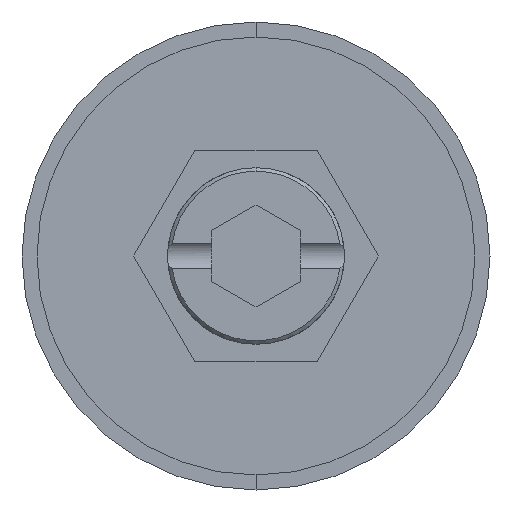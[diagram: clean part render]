
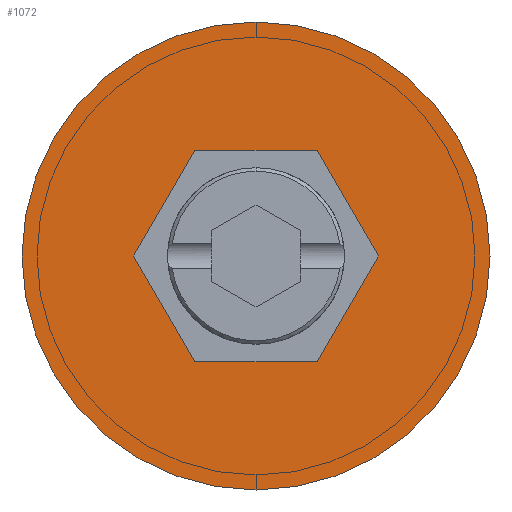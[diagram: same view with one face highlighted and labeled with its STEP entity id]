
A CAD part, front view. The second image highlights one B-rep face of the part: STEP entity #1072.
In plain terms, the highlighted planar face has unit normal (0, -1, 0).
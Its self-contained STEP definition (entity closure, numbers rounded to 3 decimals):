
#38 = VECTOR ( 'NONE', #1191, 1000. ) ;
#42 = ORIENTED_EDGE ( 'NONE', *, *, #471, .F. ) ;
#70 = CARTESIAN_POINT ( 'NONE',  ( -3.464, 0., 6. ) ) ;
#114 = DIRECTION ( 'NONE',  ( 1., 0., 0. ) ) ;
#125 = CARTESIAN_POINT ( 'NONE',  ( 3.464, 0., -6. ) ) ;
#163 = CARTESIAN_POINT ( 'NONE',  ( 3.464, 0., 6. ) ) ;
#191 = FACE_OUTER_BOUND ( 'NONE', #1991, .T. ) ;
#244 = DIRECTION ( 'NONE',  ( -0.5, 0., -0.866 ) ) ;
#276 = EDGE_CURVE ( 'NONE', #1986, #1372, #1050, .T. ) ;
#343 = DIRECTION ( 'NONE',  ( 0.5, 0., -0.866 ) ) ;
#361 = AXIS2_PLACEMENT_3D ( 'NONE', #1248, #2117, #393 ) ;
#393 = DIRECTION ( 'NONE',  ( 0., 0., -1. ) ) ;
#421 = VECTOR ( 'NONE', #244, 1000. ) ;
#441 = EDGE_CURVE ( 'NONE', #1760, #511, #1683, .T. ) ;
#471 = EDGE_CURVE ( 'NONE', #585, #1706, #2101, .T. ) ;
#473 = ORIENTED_EDGE ( 'NONE', *, *, #1094, .F. ) ;
#511 = VERTEX_POINT ( 'NONE', #1502 ) ;
#524 = ORIENTED_EDGE ( 'NONE', *, *, #1403, .F. ) ;
#560 = ORIENTED_EDGE ( 'NONE', *, *, #1612, .T. ) ;
#581 = DIRECTION ( 'NONE',  ( 0., -1., 0. ) ) ;
#585 = VERTEX_POINT ( 'NONE', #125 ) ;
#596 = CARTESIAN_POINT ( 'NONE',  ( 3.464, 0., -6. ) ) ;
#840 = CARTESIAN_POINT ( 'NONE',  ( 6.928, 0., 0. ) ) ;
#907 = CIRCLE ( 'NONE', #985, 13.25 ) ;
#985 = AXIS2_PLACEMENT_3D ( 'NONE', #1027, #2233, #1193 ) ;
#1000 = CARTESIAN_POINT ( 'NONE',  ( 0., 0., 13.25 ) ) ;
#1025 = CARTESIAN_POINT ( 'NONE',  ( 0., 0., -13.25 ) ) ;
#1027 = CARTESIAN_POINT ( 'NONE',  ( 0., 0., 0. ) ) ;
#1050 = CIRCLE ( 'NONE', #2107, 13.25 ) ;
#1072 = ADVANCED_FACE ( 'NONE', ( #1113, #191 ), #1090, .T. ) ;
#1090 = PLANE ( 'NONE',  #361 ) ;
#1092 = ORIENTED_EDGE ( 'NONE', *, *, #276, .T. ) ;
#1094 = EDGE_CURVE ( 'NONE', #1706, #1615, #1296, .T. ) ;
#1113 = FACE_BOUND ( 'NONE', #1428, .T. ) ;
#1118 = VECTOR ( 'NONE', #114, 1000. ) ;
#1190 = CARTESIAN_POINT ( 'NONE',  ( 3.464, 0., 6. ) ) ;
#1191 = DIRECTION ( 'NONE',  ( -0.5, 0., 0.866 ) ) ;
#1193 = DIRECTION ( 'NONE',  ( 0., 0., -1. ) ) ;
#1248 = CARTESIAN_POINT ( 'NONE',  ( 0., 0., 0. ) ) ;
#1269 = VECTOR ( 'NONE', #343, 1000. ) ;
#1293 = CARTESIAN_POINT ( 'NONE',  ( -3.464, 0., -6. ) ) ;
#1296 = LINE ( 'NONE', #2121, #38 ) ;
#1351 = DIRECTION ( 'NONE',  ( -1., 0., 0. ) ) ;
#1356 = VECTOR ( 'NONE', #1351, 1000. ) ;
#1363 = CARTESIAN_POINT ( 'NONE',  ( -6.928, 0., 0. ) ) ;
#1372 = VERTEX_POINT ( 'NONE', #1000 ) ;
#1394 = CARTESIAN_POINT ( 'NONE',  ( -3.464, 0., -6. ) ) ;
#1403 = EDGE_CURVE ( 'NONE', #511, #2071, #1676, .T. ) ;
#1410 = LINE ( 'NONE', #1190, #1356 ) ;
#1428 = EDGE_LOOP ( 'NONE', ( #1808, #524, #2153, #2016, #473, #42 ) ) ;
#1502 = CARTESIAN_POINT ( 'NONE',  ( -6.928, 0., 0. ) ) ;
#1519 = VECTOR ( 'NONE', #1794, 1000. ) ;
#1559 = LINE ( 'NONE', #1293, #1118 ) ;
#1596 = EDGE_CURVE ( 'NONE', #1615, #1760, #1410, .T. ) ;
#1606 = CARTESIAN_POINT ( 'NONE',  ( 0., 0., 0. ) ) ;
#1612 = EDGE_CURVE ( 'NONE', #1372, #1986, #907, .T. ) ;
#1615 = VERTEX_POINT ( 'NONE', #163 ) ;
#1637 = CARTESIAN_POINT ( 'NONE',  ( -3.464, 0., 6. ) ) ;
#1676 = LINE ( 'NONE', #1363, #1269 ) ;
#1683 = LINE ( 'NONE', #70, #421 ) ;
#1706 = VERTEX_POINT ( 'NONE', #840 ) ;
#1760 = VERTEX_POINT ( 'NONE', #1637 ) ;
#1781 = DIRECTION ( 'NONE',  ( 0., 0., -1. ) ) ;
#1794 = DIRECTION ( 'NONE',  ( 0.5, 0., 0.866 ) ) ;
#1808 = ORIENTED_EDGE ( 'NONE', *, *, #1901, .F. ) ;
#1901 = EDGE_CURVE ( 'NONE', #2071, #585, #1559, .T. ) ;
#1986 = VERTEX_POINT ( 'NONE', #1025 ) ;
#1991 = EDGE_LOOP ( 'NONE', ( #1092, #560 ) ) ;
#2016 = ORIENTED_EDGE ( 'NONE', *, *, #1596, .F. ) ;
#2071 = VERTEX_POINT ( 'NONE', #1394 ) ;
#2101 = LINE ( 'NONE', #596, #1519 ) ;
#2107 = AXIS2_PLACEMENT_3D ( 'NONE', #1606, #581, #1781 ) ;
#2117 = DIRECTION ( 'NONE',  ( 0., -1., 0. ) ) ;
#2121 = CARTESIAN_POINT ( 'NONE',  ( 6.928, 0., 0. ) ) ;
#2153 = ORIENTED_EDGE ( 'NONE', *, *, #441, .F. ) ;
#2233 = DIRECTION ( 'NONE',  ( 0., -1., 0. ) ) ;
